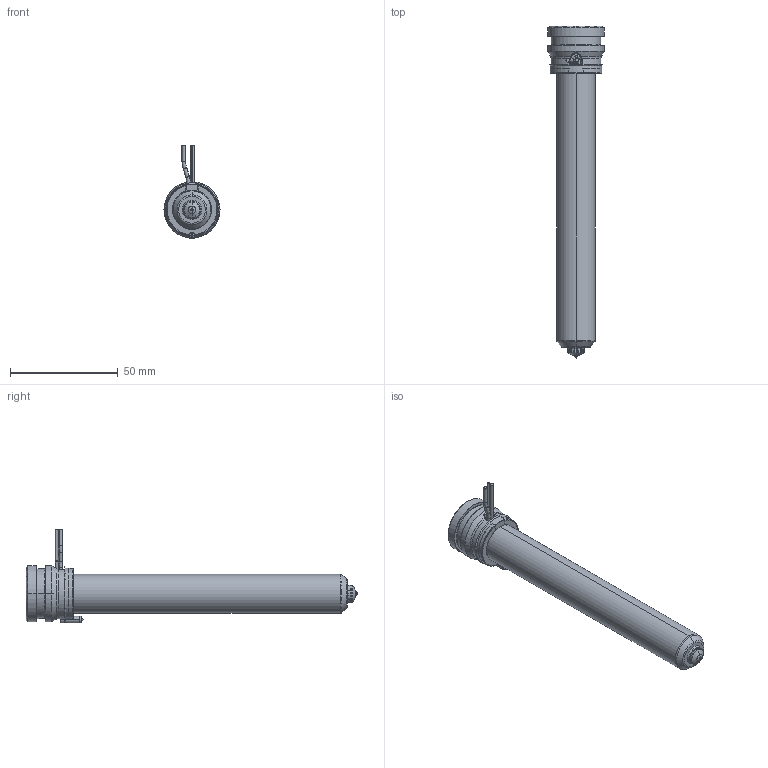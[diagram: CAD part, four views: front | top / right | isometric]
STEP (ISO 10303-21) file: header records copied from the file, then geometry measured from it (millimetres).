
FILE_DESCRIPTION((''),'2;1');
FILE_NAME('MPN-08-24-VSA8-136-A','2026-02-05T12:03:51',('UPTIO'),('Thermoplay S.p.A.'),'CREO PARAMETRIC BY PTC INC, 2023494','CREO PARAMETRIC BY PTC INC, 2023494','');
FILE_SCHEMA(('CONFIG_CONTROL_DESIGN','SHAPE_APPEARANCE_LAYERS_GROUPS'));
Length unit declared in the file: millimetre
Products named in the file (1): MPN-08-24-VSA8-136-A
Bounding box: 26 x 154 x 43.5 mm (x, y, z)
Volume: 29492.4 mm3; surface area: 38072.1 mm2
Topology: 2 solids, 3 shells, 543 faces, 1440 edges, 895 vertices
Faces by surface type: cylinder 182, plane 143, bspline 80, torus 62, cone 60, sphere 10, extrusion 6
Entity records: 29202 total; most frequent: CARTESIAN_POINT 13004, ORIENTED_EDGE 2864, DIRECTION 2580, EDGE_CURVE 1432, AXIS2_PLACEMENT_3D 1007, VERTEX_POINT 895, EDGE_LOOP 571, VECTOR 566
